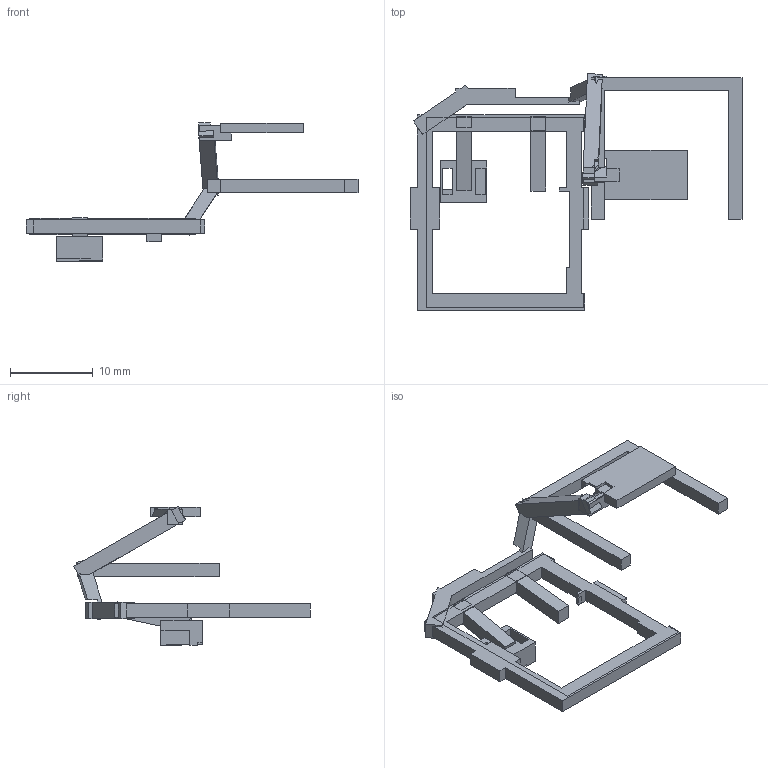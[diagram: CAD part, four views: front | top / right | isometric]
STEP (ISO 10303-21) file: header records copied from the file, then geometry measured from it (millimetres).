
FILE_DESCRIPTION(('Open CASCADE Model'),'2;1');
FILE_NAME('Open CASCADE Shape Model','2026-10-17T17:22:12',('Author'),( 'Open CASCADE'),'Open CASCADE STEP processor 7.9','Open CASCADE 7.9' ,'Unknown');
FILE_SCHEMA(('AUTOMOTIVE_DESIGN { 1 0 10303 214 1 1 1 1 }'));
Length unit declared in the file: millimetre
Products named in the file (1): Open CASCADE STEP translator 7.9 2
Bounding box: 40.1 x 28.56 x 16.74 mm (x, y, z)
Volume: 656.1 mm3; surface area: 1557.1 mm2
Topology: 1 solids, 1 shells, 194 faces, 565 edges, 375 vertices
Faces by surface type: plane 194
Entity records: 13155 total; most frequent: CARTESIAN_POINT 2742, DIRECTION 1608, LINE 1218, VECTOR 1218, ORIENTED_EDGE 1130, PCURVE 1130, DEFINITIONAL_REPRESENTATION 1130, EDGE_CURVE 565
